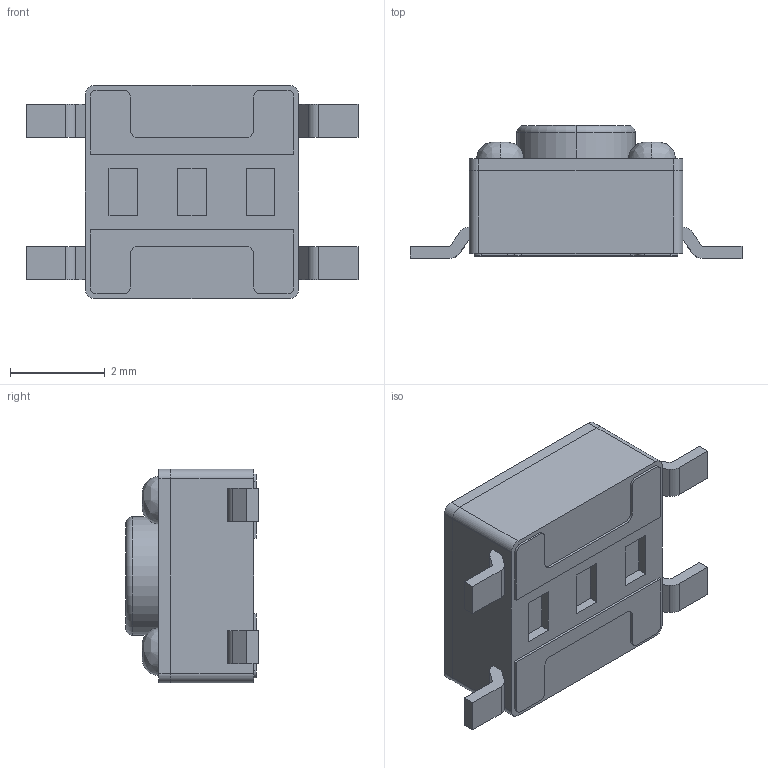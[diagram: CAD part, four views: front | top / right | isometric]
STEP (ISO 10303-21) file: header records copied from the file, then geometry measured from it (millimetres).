
FILE_DESCRIPTION (( 'STEP AP214' ), '1' );
FILE_NAME ('TVCM01 4.5X4.5X2.8H.STEP', '2024-10-30T08:58:18', ( '' ), ( '' ), 'SwSTEP 2.0', 'SolidWorks 2023', '' );
FILE_SCHEMA (( 'AUTOMOTIVE_DESIGN' ));
Length unit declared in the file: millimetre
Products named in the file (1): TVCM01   4.5X4.5X2.8H
Bounding box: 7 x 2.8 x 4.5 mm (x, y, z)
Volume: 39.3 mm3; surface area: 245.7 mm2
Topology: 6 solids, 6 shells, 649 faces, 1745 edges, 1152 vertices
Faces by surface type: plane 378, cylinder 175, bspline 90, cone 4, torus 2
Entity records: 24203 total; most frequent: CARTESIAN_POINT 8439, ORIENTED_EDGE 3490, DIRECTION 2877, EDGE_CURVE 1745, LINE 1165, VECTOR 1165, VERTEX_POINT 1152, AXIS2_PLACEMENT_3D 856
